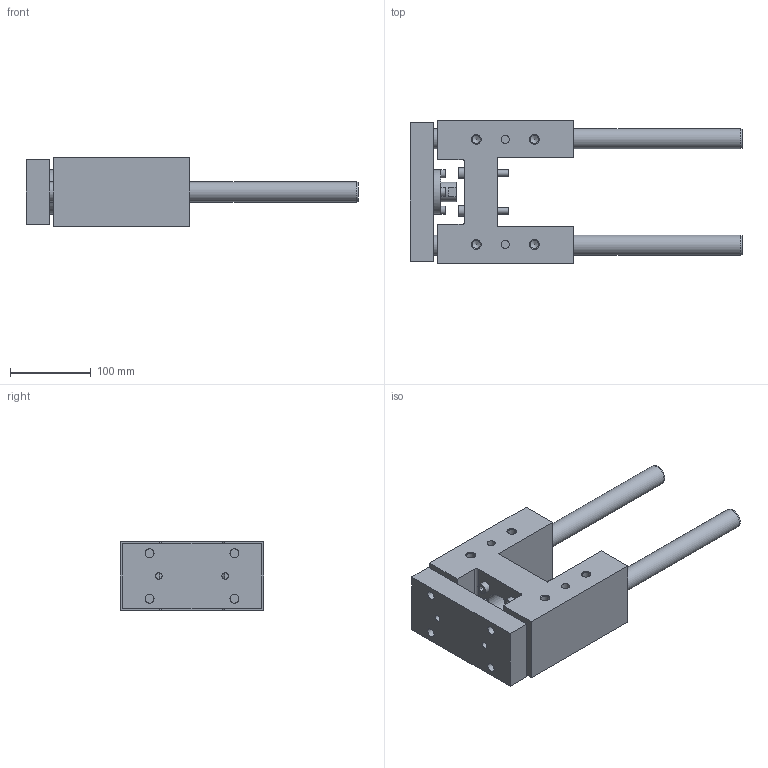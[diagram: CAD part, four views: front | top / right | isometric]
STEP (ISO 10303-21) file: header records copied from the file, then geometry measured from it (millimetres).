
FILE_DESCRIPTION( ( 'STEP AP214' ), '1' );
FILE_NAME( 'U:/Etudes/Top Solid/BIBLIO 3D AVM/TOP/PNEUMATIQUE/GUIDAGES/Type 32 (en H)/R_Renforcée/326R3_30.step', '2005-05-27T09:01:35', ( ' ' ), ( ' ' ), 'XStep 1.0', ' ', ' ' );
FILE_SCHEMA( ( 'automotive_design' ) );
Length unit declared in the file: metre
Products named in the file (2): 1; 2
Bounding box: 411 x 178 x 85 mm (x, y, z)
Volume: 2185198.9 mm3; surface area: 279929.9 mm2
Topology: 2 solids, 7 shells, 209 faces, 484 edges, 321 vertices
Faces by surface type: plane 118, cylinder 70, cone 21
Full cylindrical faces by diameter (mm): 6 x8, 6.5 x4, 8 x10, 8.376 x4, 9 x4, 10 x6, 10.106 x8, 11 x4, 13 x4, 14.376 x2, 18 x4, 24 x1, 25 x4, 26 x1, 34 x1, 37 x1, 40 x1, 55 x1
Entity records: 7089 total; most frequent: CARTESIAN_POINT 1103, DIRECTION 900, ORIENTED_EDGE 696, EDGE_LOOP 358, AXIS2_PLACEMENT_3D 349, EDGE_CURVE 348, VERTEX_POINT 280, FACE_OUTER_BOUND 277
